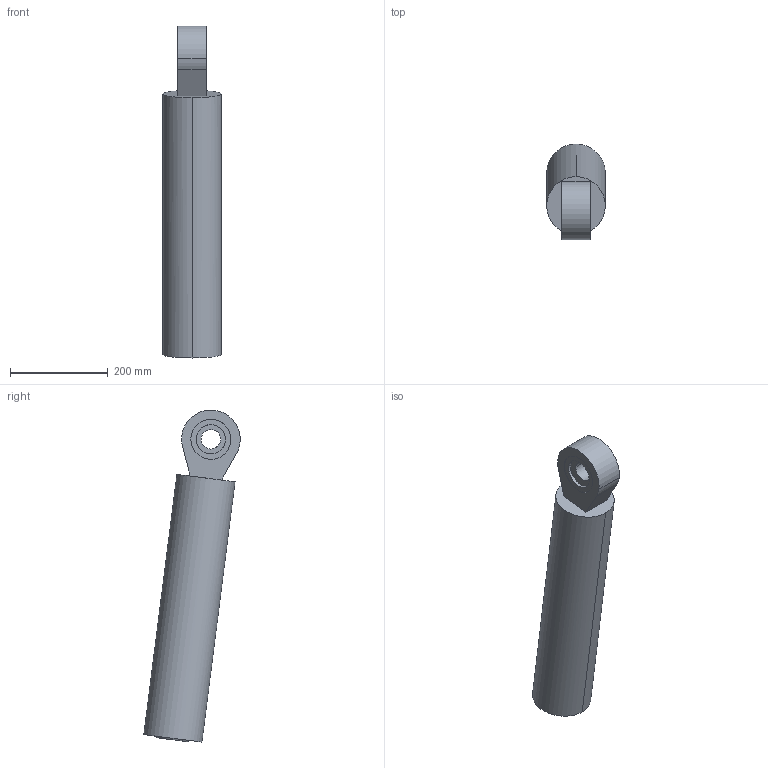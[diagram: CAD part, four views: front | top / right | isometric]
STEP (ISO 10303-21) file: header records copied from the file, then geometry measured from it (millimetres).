
FILE_DESCRIPTION(('CATIA V5 STEP Exchange'),'2;1');
FILE_NAME('Z:\ROBOT\CATIA06\products\SRA\SRA240L-01\Assy\FTP\catia\SRA240L-01_J2a.stp','2023-04-03T10:18:10+00:00',('none'),('none'),'CATIA Version 5-6 Release 2016 SP3','CATIA V5 STEP AP203','none');
FILE_SCHEMA(('CONFIG_CONTROL_DESIGN'));
Length unit declared in the file: millimetre
Products named in the file (1): SRA240L-01_J2a
Bounding box: 120 x 197.24 x 679.57 mm (x, y, z)
Volume: 6704513.8 mm3; surface area: 284056.3 mm2
Topology: 1 solids, 1 shells, 34 faces, 108 edges, 84 vertices
Faces by surface type: cylinder 19, plane 13, cone 2
Entity records: 1377 total; most frequent: CARTESIAN_POINT 371, ORIENTED_EDGE 216, DIRECTION 160, EDGE_CURVE 108, AXIS2_PLACEMENT_3D 98, VERTEX_POINT 84, CIRCLE 64, EDGE_LOOP 44
